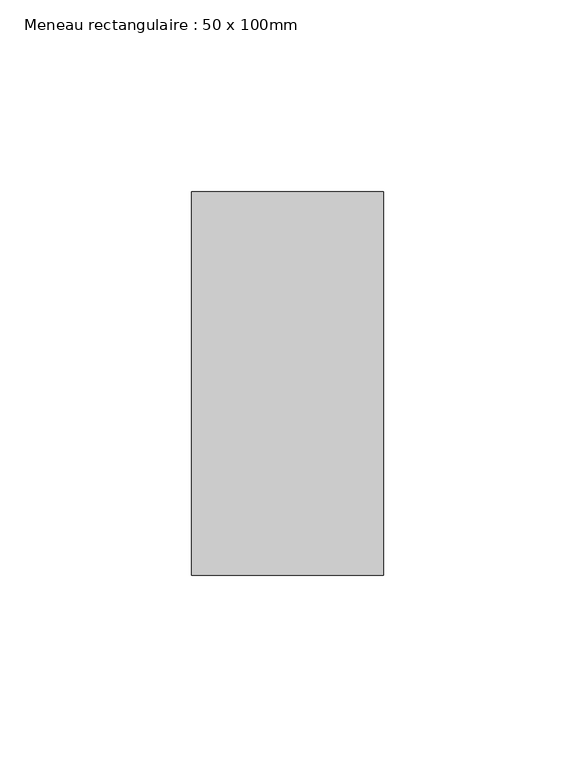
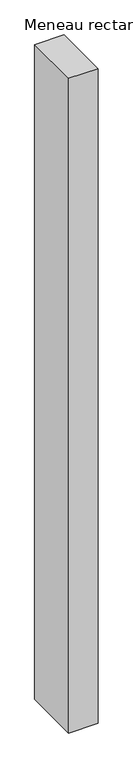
"""IFC4 building model written with IfcOpenShell, lengths in millimetres: member geometry, Meneau rectangulaire : 50 x 100mm."""

from ifc_helpers import new_model, si_unit, frame, origin, place, context, project, spatial, polyline, outline, extrude, source, transform, mapped, element, save


def meneau_rectangulaire_50_x_100mm_98a642bf(model_context):
    return source(origin(), model_context, "Body", "SweptSolid", [
        extrude(outline(polyline([(25.0, 50.0), (25.0, -50.0), (-25.0, -50.0), (-25.0, 50.0), (25.0, 50.0)])), frame((0.0, 0.0, -1175.0), z_axis=(0.0, 0.0, 1.0), x_axis=(1.0, 0.0, 0.0)), (0.0, 0.0, 1.0), 1175.0),
    ])


if __name__ == "__main__":
    model = new_model("IFC4")
    model_context = context("Model", 3, world=origin())
    ifc_project = project(units=[si_unit("LENGTHUNIT", "METRE", prefix="MILLI")], contexts=[model_context])
    site = spatial("IfcSite", under=ifc_project)
    building = spatial("IfcBuilding", under=site)
    placement = place(None, origin())
    meneau_rectangulaire_50_x_100mm_shape = meneau_rectangulaire_50_x_100mm_98a642bf(model_context)
    element("IfcMember", 1, ObjectType="Meneau rectangulaire : 50 x 100mm", at=placement, inside=building, context=model_context, shape_type="MappedRepresentation", body=[
        mapped(meneau_rectangulaire_50_x_100mm_shape, transform((0.0, 0.0, 0.0), x_axis=(1.0, 0.0, 0.0), y_axis=(0.0, 1.0, 0.0), z_axis=(0.0, 0.0, 1.0))),
    ])
    save(model, "model.ifc")
